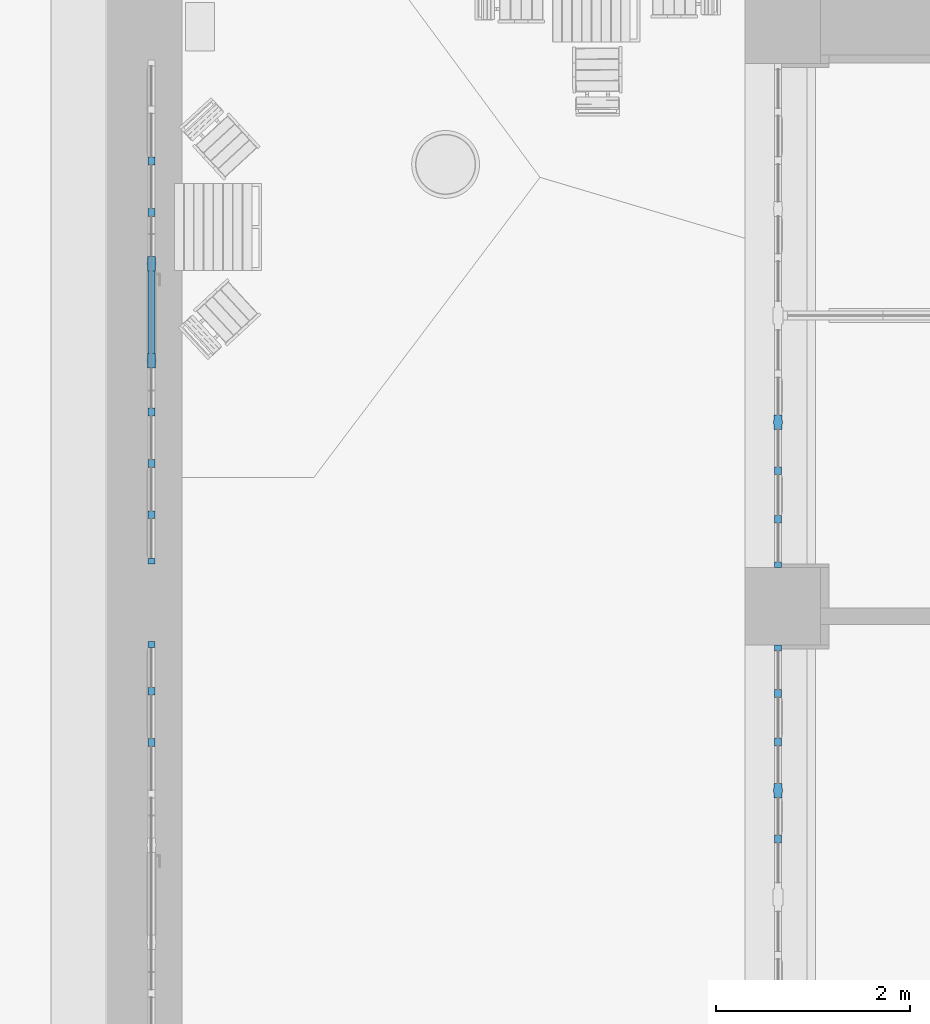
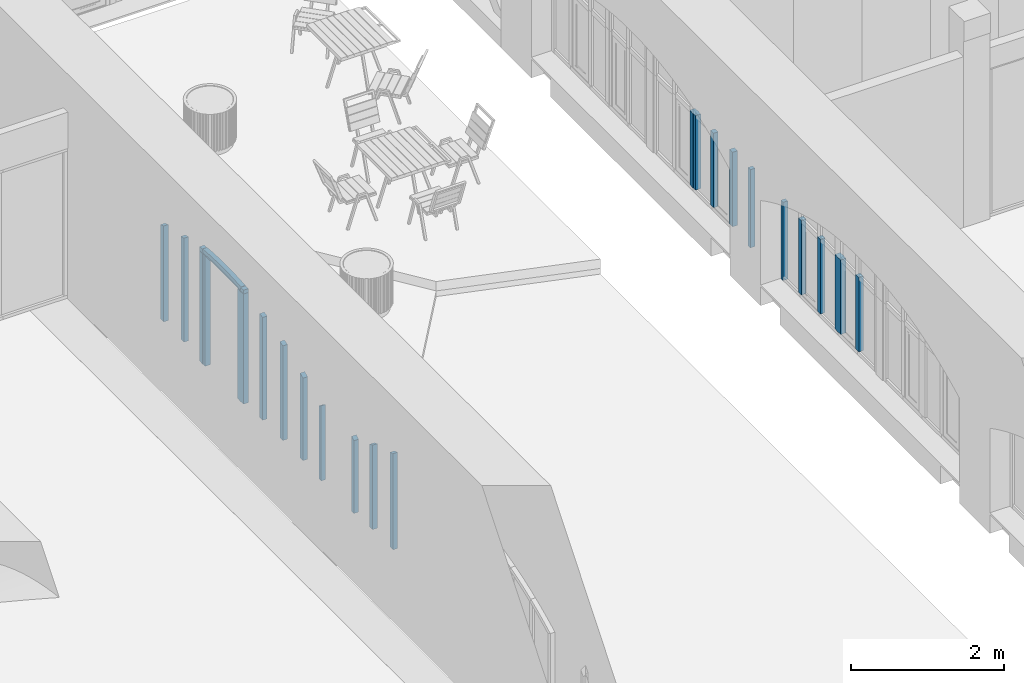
# One storey, part 12 of 88: 22 members, 4 elements without a shape of their own.
"""IFC2X3 building model written with IfcOpenShell, lengths in millimetres."""

import ifcopenshell
import ifcopenshell.guid

model = None  # the IFC model being written
_history = None  # IfcOwnerHistory: only IFC2X3 demands one
_inside = {}  # id of a spatial element -> (the spatial element, [elements in it])
_under = {}  # id of a project, library or spatial element -> (it, [spatial elements below it])
_declared = {}  # id of a project -> (the project, [libraries it declares])
_typed = {}  # id of a type object -> (the type object, [elements of that type])
_made_of = {}  # id of a material, layer set ... -> (it, [elements and type objects made of it])


def new_model(schema):
    """Start an empty IFC model of exactly this schema.

    Asked for "IFC4X3", IfcOpenShell would pick the latest addendum, in which some entities
    have other attributes; the version numbers below select the first issue.
    IFC2X3 requires an IfcOwnerHistory on every rooted entity: one is made here for all.
    """
    global model, _history
    if schema == "IFC4X3":
        model = ifcopenshell.file(schema_version=(4, 3, 0, 0))
    else:
        model = ifcopenshell.file(schema=schema)
    _inside.clear()
    _under.clear()
    _declared.clear()
    _typed.clear()
    _made_of.clear()
    _history = None
    if model.schema == "IFC2X3":
        org = make("IfcOrganization", Name="unknown")
        user = make(
            "IfcPersonAndOrganization",
            ThePerson=make("IfcPerson", FamilyName="unknown"),
            TheOrganization=org,
        )
        app = make(
            "IfcApplication",
            ApplicationDeveloper=org,
            Version="unknown",
            ApplicationFullName="unknown",
            ApplicationIdentifier="unknown",
        )
        _history = make(
            "IfcOwnerHistory",
            OwningUser=user,
            OwningApplication=app,
            ChangeAction="ADDED",
            CreationDate=0,
        )
    return model


def make(cls, **values):
    """One entity of the class cls with the attributes given. An attribute that is None is left unset."""
    return model.create_entity(
        cls, **{name: value for name, value in values.items() if value is not None}
    )


def entity(cls, *values):
    """Any entity or typed value of the class cls, its attributes in the order of the schema. None: left unset."""
    e = model.create_entity(cls)
    for i, value in enumerate(values):
        if value is not None:
            e[i] = value
    return e


def rooted(cls, **values):
    """An entity with a GlobalId (a new one), such as an element, a storey or a relation."""
    return make(cls, GlobalId=ifcopenshell.guid.new(), OwnerHistory=_history, **values)


def si_unit(unit_type, name, prefix=None):
    """IfcSIUnit, for example si_unit("LENGTHUNIT", "METRE", prefix="MILLI")."""
    return make("IfcSIUnit", UnitType=unit_type, Prefix=prefix, Name=name)


def converted_unit(unit_type, name, factor, base, dimensions=None, offset=None):
    """IfcConversionBasedUnit, such as the inch: factor (a typed value) times the base unit."""
    return make(
        "IfcConversionBasedUnit"
        if offset is None
        else "IfcConversionBasedUnitWithOffset",
        ConversionOffset=offset,
        Dimensions=None
        if dimensions is None
        else entity("IfcDimensionalExponents", *dimensions),
        UnitType=unit_type,
        Name=name,
        ConversionFactor=make(
            "IfcMeasureWithUnit", ValueComponent=factor, UnitComponent=base
        ),
    )


def derived_unit(unit_type, elements):
    """IfcDerivedUnit: a product of units, each with its exponent."""
    return make(
        "IfcDerivedUnit",
        Elements=[
            make("IfcDerivedUnitElement", Unit=unit, Exponent=power)
            for unit, power in elements
        ],
        UnitType=unit_type,
    )


def assignment(units):
    """IfcUnitAssignment: the units of a project."""
    return None if units is None else make("IfcUnitAssignment", Units=units)


def point(xyz):
    """IfcCartesianPoint."""
    return None if xyz is None else make("IfcCartesianPoint", Coordinates=xyz)


def direction(xyz):
    """IfcDirection."""
    return None if xyz is None else make("IfcDirection", DirectionRatios=xyz)


def frame(location, z_axis=None, x_axis=None):
    """IfcAxis2Placement3D, a coordinate frame: its origin and axes. An axis left out is left unset."""
    return make(
        "IfcAxis2Placement3D",
        Location=point(location),
        Axis=direction(z_axis),
        RefDirection=direction(x_axis),
    )


def frame_2d(location, x_axis=None):
    """IfcAxis2Placement2D, a coordinate frame in the plane: its origin and x axis."""
    return make(
        "IfcAxis2Placement2D", Location=point(location), RefDirection=direction(x_axis)
    )


def origin():
    """The frame at (0, 0, 0) with its axes left unset."""
    return frame((0.0, 0.0, 0.0))


def place(relative_to, where):
    """IfcLocalPlacement: puts the frame where relative to a parent placement (None: the world)."""
    return make(
        "IfcLocalPlacement", PlacementRelTo=relative_to, RelativePlacement=where
    )


def context(
    kind, dimensions, precision=None, world=None, true_north=None, identifier=None
):
    """IfcGeometricRepresentationContext, for example the 3D "Model" context."""
    return make(
        "IfcGeometricRepresentationContext",
        ContextIdentifier=identifier,
        ContextType=kind,
        CoordinateSpaceDimension=dimensions,
        Precision=precision,
        WorldCoordinateSystem=world,
        TrueNorth=true_north,
    )


def subcontext(parent, identifier, kind, view, scale=None):
    """IfcGeometricRepresentationSubContext, for example "Body" below "Model"."""
    return make(
        "IfcGeometricRepresentationSubContext",
        ContextIdentifier=identifier,
        ContextType=kind,
        ParentContext=parent,
        TargetScale=scale,
        TargetView=view,
    )


def project(units=None, contexts=None):
    """IfcProject with its units and contexts."""
    return rooted(
        "IfcProject",
        Name="project",
        RepresentationContexts=contexts,
        UnitsInContext=assignment(units),
    )


def spatial(cls, under=None, at=None, **own):
    """A site, building, storey or space (cls), placed at a placement, below another one or the project."""
    s = rooted(cls, ObjectPlacement=at, **own)
    if under is not None:
        _under.setdefault(under.id(), (under, []))[1].append(s)
    return s


def polyline(points):
    """IfcPolyline through the points."""
    return make("IfcPolyline", Points=[point(p) for p in points])


def circle_curve(where, radius):
    """IfcCircle in the frame where."""
    return make("IfcCircle", Position=where, Radius=radius)


def parameter(value):
    """IfcParameterValue: where a trimmed curve begins or ends, as a parameter of its basis curve."""
    return model.create_entity("IfcParameterValue", value)


def trimmed(basis, trim1, trim2, sense, master):
    """IfcTrimmedCurve: the piece of a basis curve between two trims."""
    return make(
        "IfcTrimmedCurve",
        BasisCurve=basis,
        Trim1=trim1,
        Trim2=trim2,
        SenseAgreement=sense,
        MasterRepresentation=master,
    )


def segment(curve, same_sense, transition):
    """IfcCompositeCurveSegment."""
    return make(
        "IfcCompositeCurveSegment",
        Transition=transition,
        SameSense=same_sense,
        ParentCurve=curve,
    )


def composite_curve(segments, self_intersect=None):
    """IfcCompositeCurve: segments joined end to end."""
    return make("IfcCompositeCurve", Segments=segments, SelfIntersect=self_intersect)


def profile(cls, at=None, kind="AREA", **sizes):
    """A parametric profile (cls). Its sizes go by their IFC names, for example OverallWidth=200.0."""
    return make(cls, ProfileType=kind, Position=at, **sizes)


def rectangle(**sizes):
    """IfcRectangleProfileDef."""
    return profile("IfcRectangleProfileDef", **sizes)


def outline(outer, holes=None, kind="AREA"):
    """IfcArbitraryClosedProfileDef: a profile drawn as a closed curve; with holes, ...WithVoids."""
    if holes is None:
        return make("IfcArbitraryClosedProfileDef", ProfileType=kind, OuterCurve=outer)
    return make(
        "IfcArbitraryProfileDefWithVoids",
        ProfileType=kind,
        OuterCurve=outer,
        InnerCurves=holes,
    )


def extrude(swept, where, along, depth):
    """IfcExtrudedAreaSolid: the profile swept, set in the frame where, extruded along a direction by depth."""
    return make(
        "IfcExtrudedAreaSolid",
        SweptArea=swept,
        Position=where,
        ExtrudedDirection=direction(along),
        Depth=depth,
    )


def shape(context_of_items, identifier, shape_type, items):
    """IfcShapeRepresentation: the items that make up one representation, for example the "Body"."""
    return make(
        "IfcShapeRepresentation",
        ContextOfItems=context_of_items,
        RepresentationIdentifier=identifier,
        RepresentationType=shape_type,
        Items=items,
    )


def source(mapping_origin, context_of_items, identifier, shape_type, items):
    """IfcRepresentationMap: a shape defined once, which mapped items show again and again."""
    return make(
        "IfcRepresentationMap",
        MappingOrigin=mapping_origin,
        MappedRepresentation=shape(context_of_items, identifier, shape_type, items),
    )


def transform(
    local_origin,
    x_axis=None,
    y_axis=None,
    z_axis=None,
    scale=None,
    scale2=None,
    scale3=None,
    uniform=True,
):
    """IfcCartesianTransformationOperator3D, or its non-uniform kind. x_axis, y_axis, z_axis: its Axis1, 2, 3."""
    if uniform:
        return make(
            "IfcCartesianTransformationOperator3D",
            Axis1=direction(x_axis),
            Axis2=direction(y_axis),
            LocalOrigin=point(local_origin),
            Scale=scale,
            Axis3=direction(z_axis),
        )
    return make(
        "IfcCartesianTransformationOperator3DnonUniform",
        Axis1=direction(x_axis),
        Axis2=direction(y_axis),
        LocalOrigin=point(local_origin),
        Scale=scale,
        Axis3=direction(z_axis),
        Scale2=scale2,
        Scale3=scale3,
    )


def mapped(mapping_source, mapping_target):
    """IfcMappedItem: shows the shape of a source again, moved by a transform."""
    return make(
        "IfcMappedItem", MappingSource=mapping_source, MappingTarget=mapping_target
    )


def material(Name=None, Category=None):
    """IfcMaterial."""
    return make("IfcMaterial", Name=Name, Category=Category)


def made_of(thing, what):
    """Note that an element or type object is made of a material, layer set ...; save() writes the relation."""
    if what is not None:
        _made_of.setdefault(what.id(), (what, []))[1].append(thing)
    return thing


def type_object(cls, material=None, **own):
    """A type object (cls), such as IfcWallType, which elements share."""
    return made_of(rooted(cls, **own), material)


def type_shapes(of_type, sources):
    """Give a type object the sources (RepresentationMaps) that its elements show as mapped items."""
    of_type.RepresentationMaps = sources


def element(
    cls,
    number,
    at=None,
    inside=None,
    cuts=None,
    type_object=None,
    material=None,
    context=None,
    identifier="Body",
    shape_type=None,
    held_by="IfcProductDefinitionShape",
    body=None,
    shapes=None,
    **own,
):
    """One element of the class cls, such as IfcWall. Its Tag is "e" and its number.

    at: its placement. inside: the storey or other place that contains it. cuts: it is an
    opening in that element (IfcRelVoidsElement). A single representation is given by context,
    identifier, shape_type and body (its items); several are given by shapes. held_by: the class
    of the entity that holds the representations. save() writes the other relations.
    """
    e = rooted(cls, Tag="e%d" % number, ObjectPlacement=at, **own)
    if body is not None:
        shapes = [shape(context, identifier, shape_type, body)]
    if shapes is not None:
        e.Representation = make(held_by, Representations=shapes)
    if inside is not None:
        _inside.setdefault(inside.id(), (inside, []))[1].append(e)
    if cuts is not None:
        rooted(
            "IfcRelVoidsElement", RelatingBuildingElement=cuts, RelatedOpeningElement=e
        )
    if type_object is not None:
        _typed.setdefault(type_object.id(), (type_object, []))[1].append(e)
    return made_of(e, material)


def aggregate(whole, parts):
    """IfcRelAggregates: a whole, such as a stair, and the parts it consists of."""
    return rooted("IfcRelAggregates", RelatingObject=whole, RelatedObjects=parts)


def save(model, path):
    """Write the relations noted so far, then the file.

    IfcRelAggregates (storeys below a building ...), IfcRelContainedInSpatialStructure (elements
    in a storey), IfcRelDefinesByType, IfcRelAssociatesMaterial and IfcRelDeclares: one each for
    every whole, place, type object, material and project.
    """
    for whole, parts in _under.values():
        aggregate(whole, parts)
    for where, things in _inside.values():
        rooted(
            "IfcRelContainedInSpatialStructure",
            RelatedElements=things,
            RelatingStructure=where,
        )
    for kind, things in _typed.values():
        rooted("IfcRelDefinesByType", RelatedObjects=things, RelatingType=kind)
    for what, things in _made_of.values():
        rooted("IfcRelAssociatesMaterial", RelatedObjects=things, RelatingMaterial=what)
    for by, libraries in _declared.values():
        rooted("IfcRelDeclares", RelatingContext=by, RelatedDefinitions=libraries)
    model.write(path)


model = new_model("IFC2X3")

# Units and contexts
model_context = context("Model", 3, precision=0.01, world=origin(), true_north=direction((6.123031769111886e-17, 1.0)))
body_context = subcontext(model_context, "Body", "Model", "MODEL_VIEW")
ifc_project = project(units=[si_unit("LENGTHUNIT", "METRE", prefix="MILLI"), si_unit("AREAUNIT", "SQUARE_METRE"), si_unit("VOLUMEUNIT", "CUBIC_METRE"), converted_unit("PLANEANGLEUNIT", "DEGREE", entity("IfcPlaneAngleMeasure", 0.017453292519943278), si_unit("PLANEANGLEUNIT", "RADIAN"), dimensions=[0, 0, 0, 0, 0, 0, 0]), si_unit("MASSUNIT", "GRAM", prefix="KILO"), derived_unit("MASSDENSITYUNIT", [(si_unit("MASSUNIT", "GRAM", prefix="KILO"), 1), (si_unit("LENGTHUNIT", "METRE"), -3)]), derived_unit("IONCONCENTRATIONUNIT", [(si_unit("MASSUNIT", "GRAM", prefix="KILO"), 1), (si_unit("LENGTHUNIT", "METRE"), -3)]), derived_unit("MOMENTOFINERTIAUNIT", [(si_unit("LENGTHUNIT", "METRE"), 4)]), si_unit("TIMEUNIT", "SECOND"), si_unit("FREQUENCYUNIT", "HERTZ"), si_unit("THERMODYNAMICTEMPERATUREUNIT", "DEGREE_CELSIUS"), derived_unit("THERMALTRANSMITTANCEUNIT", [(si_unit("MASSUNIT", "GRAM", prefix="KILO"), 1), (si_unit("THERMODYNAMICTEMPERATUREUNIT", "KELVIN"), -1), (si_unit("TIMEUNIT", "SECOND"), -3)]), derived_unit("THERMALCONDUCTANCEUNIT", [(si_unit("MASSUNIT", "GRAM", prefix="KILO"), 1), (si_unit("THERMODYNAMICTEMPERATUREUNIT", "KELVIN"), -1), (si_unit("TIMEUNIT", "SECOND"), -3), (si_unit("LENGTHUNIT", "METRE"), 1)]), derived_unit("VOLUMETRICFLOWRATEUNIT", [(si_unit("LENGTHUNIT", "METRE", prefix="DECI"), 3), (si_unit("TIMEUNIT", "SECOND"), -1)]), derived_unit("MASSFLOWRATEUNIT", [(si_unit("MASSUNIT", "GRAM", prefix="KILO"), 1), (si_unit("TIMEUNIT", "SECOND"), -1)]), derived_unit("ROTATIONALFREQUENCYUNIT", [(si_unit("TIMEUNIT", "SECOND"), -1)]), si_unit("ELECTRICCURRENTUNIT", "AMPERE"), si_unit("ELECTRICVOLTAGEUNIT", "VOLT"), si_unit("POWERUNIT", "WATT"), si_unit("FORCEUNIT", "NEWTON", prefix="KILO"), si_unit("ILLUMINANCEUNIT", "LUX"), si_unit("LUMINOUSFLUXUNIT", "LUMEN"), si_unit("LUMINOUSINTENSITYUNIT", "CANDELA"), si_unit("ENERGYUNIT", "JOULE"), derived_unit("USERDEFINED", [(si_unit("MASSUNIT", "GRAM", prefix="KILO"), -1), (si_unit("LENGTHUNIT", "METRE"), -2), (si_unit("TIMEUNIT", "SECOND"), 3), (si_unit("LUMINOUSFLUXUNIT", "LUMEN"), 1)]), derived_unit("USERDEFINED", [(si_unit("MASSUNIT", "GRAM", prefix="KILO"), 1), (si_unit("TIMEUNIT", "SECOND"), -3), (si_unit("LENGTHUNIT", "METRE"), 3), (si_unit("ELECTRICCURRENTUNIT", "AMPERE"), -2)]), derived_unit("SOUNDPOWERUNIT", [(si_unit("MASSUNIT", "GRAM", prefix="KILO"), 1), (si_unit("TIMEUNIT", "SECOND"), -3), (si_unit("LENGTHUNIT", "METRE"), 2)]), derived_unit("SOUNDPRESSUREUNIT", [(si_unit("MASSUNIT", "GRAM", prefix="KILO"), 1), (si_unit("LENGTHUNIT", "METRE"), -1), (si_unit("TIMEUNIT", "SECOND"), -2)]), derived_unit("LINEARVELOCITYUNIT", [(si_unit("LENGTHUNIT", "METRE"), 1), (si_unit("TIMEUNIT", "SECOND"), -1)]), si_unit("PRESSUREUNIT", "PASCAL"), derived_unit("USERDEFINED", [(si_unit("MASSUNIT", "GRAM", prefix="KILO"), 1), (si_unit("LENGTHUNIT", "METRE"), -2), (si_unit("TIMEUNIT", "SECOND"), -2)]), derived_unit("LINEARFORCEUNIT", [(si_unit("MASSUNIT", "GRAM", prefix="KILO"), 1), (si_unit("TIMEUNIT", "SECOND"), -2)]), derived_unit("PLANARFORCEUNIT", [(si_unit("MASSUNIT", "GRAM", prefix="KILO"), 1), (si_unit("LENGTHUNIT", "METRE"), -1), (si_unit("TIMEUNIT", "SECOND"), -2)]), derived_unit("SPECIFICHEATCAPACITYUNIT", [(si_unit("THERMODYNAMICTEMPERATUREUNIT", "KELVIN"), -1), (si_unit("LENGTHUNIT", "METRE"), 2), (si_unit("TIMEUNIT", "SECOND"), -2)]), derived_unit("HEATFLUXDENSITYUNIT", [(si_unit("MASSUNIT", "GRAM", prefix="KILO"), 1), (si_unit("TIMEUNIT", "SECOND"), -3)]), derived_unit("HEATINGVALUEUNIT", [(si_unit("LENGTHUNIT", "METRE"), 2), (si_unit("TIMEUNIT", "SECOND"), -2)]), derived_unit("VAPORPERMEABILITYUNIT", [(si_unit("LENGTHUNIT", "METRE"), -1), (si_unit("TIMEUNIT", "SECOND"), 1)]), derived_unit("DYNAMICVISCOSITYUNIT", [(si_unit("MASSUNIT", "GRAM", prefix="KILO"), 1), (si_unit("TIMEUNIT", "SECOND"), -1), (si_unit("LENGTHUNIT", "METRE"), -1)]), derived_unit("THERMALEXPANSIONCOEFFICIENTUNIT", [(si_unit("THERMODYNAMICTEMPERATUREUNIT", "KELVIN"), -1)]), derived_unit("MODULUSOFELASTICITYUNIT", [(si_unit("MASSUNIT", "GRAM", prefix="KILO"), 1), (si_unit("LENGTHUNIT", "METRE"), -1), (si_unit("TIMEUNIT", "SECOND"), -2)]), derived_unit("ISOTHERMALMOISTURECAPACITYUNIT", [(si_unit("MASSUNIT", "GRAM", prefix="KILO"), -1), (si_unit("LENGTHUNIT", "METRE"), 3)]), derived_unit("MOISTUREDIFFUSIVITYUNIT", [(si_unit("TIMEUNIT", "SECOND"), -1), (si_unit("LENGTHUNIT", "METRE"), 2)]), derived_unit("MASSPERLENGTHUNIT", [(si_unit("MASSUNIT", "GRAM", prefix="KILO"), 1), (si_unit("LENGTHUNIT", "METRE"), -1)]), derived_unit("THERMALRESISTANCEUNIT", [(si_unit("MASSUNIT", "GRAM", prefix="KILO"), -1), (si_unit("TIMEUNIT", "SECOND"), 3), (si_unit("THERMODYNAMICTEMPERATUREUNIT", "KELVIN"), 1)]), derived_unit("ACCELERATIONUNIT", [(si_unit("LENGTHUNIT", "METRE"), 1), (si_unit("TIMEUNIT", "SECOND"), -2)]), derived_unit("ANGULARVELOCITYUNIT", [(si_unit("TIMEUNIT", "SECOND"), -1), (si_unit("PLANEANGLEUNIT", "RADIAN"), 1)]), derived_unit("LINEARSTIFFNESSUNIT", [(si_unit("MASSUNIT", "GRAM", prefix="KILO"), 1), (si_unit("TIMEUNIT", "SECOND"), -2)]), derived_unit("WARPINGCONSTANTUNIT", [(si_unit("LENGTHUNIT", "METRE"), 6)]), derived_unit("LINEARMOMENTUNIT", [(si_unit("MASSUNIT", "GRAM", prefix="KILO"), 1), (si_unit("LENGTHUNIT", "METRE"), 1), (si_unit("TIMEUNIT", "SECOND"), -2)]), derived_unit("TORQUEUNIT", [(si_unit("MASSUNIT", "GRAM", prefix="KILO"), 1), (si_unit("LENGTHUNIT", "METRE"), 2), (si_unit("TIMEUNIT", "SECOND"), -2)])], contexts=[model_context])

# Site, building, storey
site_placement = place(None, origin())
site = spatial("IfcSite", under=ifc_project, at=site_placement, Name="Default", CompositionType="ELEMENT")
building_placement = place(site_placement, origin())
building = spatial("IfcBuilding", under=site, at=building_placement, Name="Eesti Rahvusraamatukogu hoone renoveerimise projekteerimistööd", CompositionType="ELEMENT")
storey_placement = place(building_placement, origin())
storey = spatial("IfcBuildingStorey", under=building, at=storey_placement, Name="1. korrus", CompositionType="ELEMENT", Elevation=0.0)

# Curtain wall, members
curtain_wall_type_1 = type_object("IfcCurtainWallType", Name="Curtain Wall:Ak-02", PredefinedType="NOTDEFINED")
curtain_wall_1_placement = place(storey_placement, origin())
curtain_wall_1 = element("IfcCurtainWall", 1, at=curtain_wall_1_placement, inside=storey, type_object=curtain_wall_type_1, Name="Curtain Wall:Ak-02", ObjectType="Curtain Wall:Ak-02")
ifc_material = material(Name="LUMION_dark steel window frames")
member_type_1 = type_object("IfcMemberType", Name="Rectangular Mullion:NEW 80x70mm", PredefinedType="MULLION", material=ifc_material)
shared_shape_1 = source(origin(), body_context, "Body", "SweptSolid", [
    extrude(rectangle(XDim=80.0, YDim=70.0, at=frame_2d((0.0, 3.552713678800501e-15), x_axis=(1.0, 0.0))), frame((0.0, 0.0, -1190.0), z_axis=(0.0, 0.0, 1.0), x_axis=(-1.0, 0.0, 0.0)), (0.0, 0.0, 1.0), 1189.9999999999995),
])
type_shapes(member_type_1, [shared_shape_1])
member_1_placement = place(curtain_wall_1_placement, frame((-36440.0, 43790.0, 2040.0), z_axis=(0.0, 0.0, -1.0), x_axis=(0.0, -1.0, 0.0)))
member_1 = element("IfcMember", 2, at=member_1_placement, type_object=member_type_1, material=ifc_material, Name="Rectangular Mullion:NEW 80x70mm", ObjectType="Rectangular Mullion:NEW 80x70mm", context=body_context, shape_type="MappedRepresentation", body=[
    mapped(shared_shape_1, transform((0.0, 0.0, 0.0), scale=1.0)),
])
member_2_placement = place(curtain_wall_1_placement, frame((-36440.0, 43290.0, 2040.0), z_axis=(0.0, 0.0, -1.0), x_axis=(0.0, -1.0, 0.0)))
member_2 = element("IfcMember", 3, at=member_2_placement, type_object=member_type_1, material=ifc_material, Name="Rectangular Mullion:NEW 80x70mm", ObjectType="Rectangular Mullion:NEW 80x70mm", context=body_context, shape_type="MappedRepresentation", body=[
    mapped(shared_shape_1, transform((0.0, 0.0, 0.0), scale=1.0)),
])

curtain_wall_2_placement = place(storey_placement, origin())
curtain_wall_2 = element("IfcCurtainWall", 4, at=curtain_wall_2_placement, inside=storey, type_object=curtain_wall_type_1, Name="Curtain Wall:Ak-02", ObjectType="Curtain Wall:Ak-02")
member_3_placement = place(curtain_wall_2_placement, frame((-36440.0, 41490.0, 2040.0), z_axis=(0.0, 0.0, -1.0), x_axis=(0.0, -1.0, 0.0)))
member_3 = element("IfcMember", 5, at=member_3_placement, type_object=member_type_1, material=ifc_material, Name="Rectangular Mullion:NEW 80x70mm", ObjectType="Rectangular Mullion:NEW 80x70mm", context=body_context, shape_type="MappedRepresentation", body=[
    mapped(shared_shape_1, transform((0.0, 0.0, 0.0), scale=1.0)),
])
member_4_placement = place(curtain_wall_2_placement, frame((-36440.0, 40990.0, 2040.0), z_axis=(0.0, 0.0, -1.0), x_axis=(0.0, -1.0, 0.0)))
member_4 = element("IfcMember", 6, at=member_4_placement, type_object=member_type_1, material=ifc_material, Name="Rectangular Mullion:NEW 80x70mm", ObjectType="Rectangular Mullion:NEW 80x70mm", context=body_context, shape_type="MappedRepresentation", body=[
    mapped(shared_shape_1, transform((0.0, 0.0, 0.0), scale=1.0)),
])
member_5_placement = place(curtain_wall_2_placement, frame((-36440.0, 39990.0, 2040.0), z_axis=(0.0, 0.0, -1.0), x_axis=(0.0, -1.0, 0.0)))
member_5 = element("IfcMember", 7, at=member_5_placement, type_object=member_type_1, material=ifc_material, Name="Rectangular Mullion:NEW 80x70mm", ObjectType="Rectangular Mullion:NEW 80x70mm", context=body_context, shape_type="MappedRepresentation", body=[
    mapped(shared_shape_1, transform((0.0, 0.0, 0.0), scale=1.0)),
])

# Member
member_type_2 = type_object("IfcMemberType", Name="Rectangular Mullion:NEW 150x90mm", PredefinedType="MULLION", material=ifc_material)
shared_shape_2 = source(origin(), body_context, "Body", "SweptSolid", [
    extrude(outline(polyline([(20.0, -40.0), (75.0, -40.0), (75.0, 40.0), (20.0, 40.0), (20.0, 45.0), (-20.0, 45.0), (-20.0, 40.0), (-75.0, 40.0), (-75.0, -40.0), (-20.0, -40.0), (-20.0, -45.0), (20.0, -45.0), (20.0, -40.0)])), frame((0.0, 0.0, -1190.0), z_axis=(0.0, 0.0, 1.0), x_axis=(-1.0, 0.0, 0.0)), (0.0, 0.0, 1.0), 1189.9999999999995),
])
type_shapes(member_type_2, [shared_shape_2])
member_6_placement = place(curtain_wall_1_placement, frame((-36440.0, 44290.0, 2040.0), z_axis=(0.0, 0.0, -1.0), x_axis=(0.0, -1.0, 0.0)))
member_6 = element("IfcMember", 8, at=member_6_placement, type_object=member_type_2, material=ifc_material, Name="Rectangular Mullion:NEW 150x90mm", ObjectType="Rectangular Mullion:NEW 150x90mm", context=body_context, shape_type="MappedRepresentation", body=[
    mapped(shared_shape_2, transform((0.0, 0.0, 0.0), scale=1.0)),
])

member_7_placement = place(curtain_wall_2_placement, frame((-36440.0, 40490.0, 2040.0), z_axis=(0.0, 0.0, -1.0), x_axis=(0.0, -1.0, 0.0)))
member_7 = element("IfcMember", 9, at=member_7_placement, type_object=member_type_2, material=ifc_material, Name="Rectangular Mullion:NEW 150x90mm", ObjectType="Rectangular Mullion:NEW 150x90mm", context=body_context, shape_type="MappedRepresentation", body=[
    mapped(shared_shape_2, transform((0.0, 0.0, 0.0), scale=1.0)),
])

member_type_3 = type_object("IfcMemberType", Name="Rectangular Mullion:NEW 60x70mm", PredefinedType="MULLION", material=ifc_material)
shared_shape_3 = source(origin(), body_context, "Body", "SweptSolid", [
    extrude(rectangle(XDim=60.0, YDim=70.0, at=frame_2d((0.0, 3.552713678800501e-15), x_axis=(1.0, 0.0))), frame((-30.0, 0.0, -1250.0), z_axis=(0.0, 0.0, 1.0), x_axis=(-1.0, 0.0, 0.0)), (0.0, 0.0, 1.0), 1249.9999999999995),
])
type_shapes(member_type_3, [shared_shape_3])
member_8_placement = place(curtain_wall_1_placement, frame((-36440.0, 42790.0, 1980.0), z_axis=(0.0, 0.0, -1.0), x_axis=(0.0, -1.0, 0.0)))
member_8 = element("IfcMember", 10, at=member_8_placement, type_object=member_type_3, material=ifc_material, Name="Rectangular Mullion:NEW 60x70mm", ObjectType="Rectangular Mullion:NEW 60x70mm", context=body_context, shape_type="MappedRepresentation", body=[
    mapped(shared_shape_3, transform((0.0, 0.0, 0.0), scale=1.0)),
])

aggregate(curtain_wall_1, [member_6, member_1, member_2, member_8])

member_type_4 = type_object("IfcMemberType", Name="Rectangular Mullion:NEW 60x70mm", PredefinedType="MULLION", material=ifc_material)
shared_shape_4 = source(origin(), body_context, "Body", "SweptSolid", [
    extrude(rectangle(XDim=60.0, YDim=70.0, at=frame_2d((0.0, 3.552713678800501e-15), x_axis=(1.0, 0.0))), frame((-30.0, 0.0, -1250.0), z_axis=(0.0, 0.0, 1.0), x_axis=(-1.0, 0.0, 0.0)), (0.0, 0.0, 1.0), 1249.9999999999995),
])
type_shapes(member_type_4, [shared_shape_4])
member_9_placement = place(curtain_wall_2_placement, frame((-36440.0, 41990.0, 3230.0), z_axis=(0.0, 0.0, 1.0), x_axis=(0.0, 1.0, 0.0)))
member_9 = element("IfcMember", 11, at=member_9_placement, type_object=member_type_4, material=ifc_material, Name="Rectangular Mullion:NEW 60x70mm", ObjectType="Rectangular Mullion:NEW 60x70mm", context=body_context, shape_type="MappedRepresentation", body=[
    mapped(shared_shape_4, transform((0.0, 0.0, 0.0), scale=1.0)),
])

aggregate(curtain_wall_2, [member_3, member_4, member_7, member_5, member_9])

# Curtain wall, members
curtain_wall_type_2 = type_object("IfcCurtainWallType", Name="Curtain Wall:Ak-05", PredefinedType="NOTDEFINED")
curtain_wall_3_placement = place(storey_placement, origin())
curtain_wall_3 = element("IfcCurtainWall", 12, at=curtain_wall_3_placement, inside=storey, type_object=curtain_wall_type_2, Name="Curtain Wall:Ak-05", ObjectType="Curtain Wall:Ak-05")
member_type_5 = type_object("IfcMemberType", Name="Rectangular Mullion:NEW 60x70mm", PredefinedType="MULLION", material=ifc_material)
shared_shape_5 = source(origin(), body_context, "Body", "SweptSolid", [
    extrude(outline(composite_curve([segment(polyline([(-75.01710683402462, -495.2424237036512), (-15.017106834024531, -495.2424237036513)]), True, "CONTINUOUS"), segment(trimmed(circle_curve(frame_2d((5448.26345993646, -495.24242370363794), x_axis=(-0.9836101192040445, 0.1803084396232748)), 5463.280566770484), [parameter(3.5622212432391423e-13)], [parameter(10.387726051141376)], True, "PARAMETER"), False, "CONTINUOUS"), segment(polyline([(74.52541041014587, 489.83317051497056), (15.508803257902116, 500.65167689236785)]), True, "CONTINUOUS"), segment(trimmed(circle_curve(frame_2d((5448.26345993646, -495.24242370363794), x_axis=(-0.9836101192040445, 0.1803084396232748)), 5523.280566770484), [parameter(3.5622212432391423e-13)], [parameter(10.387726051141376)], True, "PARAMETER"), True, "CONTINUOUS")], self_intersect=False)), frame((-75.01710683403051, -35.0, -495.2424237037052), z_axis=(0.0, 1.0, 0.0), x_axis=(-0.9836101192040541, 0.0, 0.18030843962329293)), (0.0, 0.0, 1.0), 69.99999999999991),
])
type_shapes(member_type_5, [shared_shape_5])
member_10_placement = place(curtain_wall_3_placement, frame((-42905.0, 44925.0, 2327.321965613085), z_axis=(0.0, -0.9958941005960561, -0.0905259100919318), x_axis=(0.0, -0.0905259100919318, 0.9958941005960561)))
member_10 = element("IfcMember", 13, at=member_10_placement, type_object=member_type_5, material=ifc_material, Name="Rectangular Mullion:NEW 60x70mm", ObjectType="Rectangular Mullion:NEW 60x70mm", context=body_context, shape_type="MappedRepresentation", body=[
    mapped(shared_shape_5, transform((0.0, 0.0, 0.0), scale=1.0)),
])
member_type_6 = type_object("IfcMemberType", Name="Rectangular Mullion:NEW 150x90mm", PredefinedType="MULLION", material=ifc_material)
shared_shape_6 = source(origin(), body_context, "Body", "SweptSolid", [
    extrude(outline(polyline([(40.0, -20.0), (45.0, -20.0), (45.0, 20.0), (40.0, 20.0), (40.0, 75.0), (-40.0, 75.0), (-40.0, 20.0), (-45.0, 20.0), (-45.0, -20.0), (-40.0, -20.0), (-40.0, -75.0), (40.0, -75.0), (40.0, -20.0)])), frame((0.0, 0.0, -1760.0), z_axis=(0.0, 0.0, 1.0), x_axis=(0.0, -1.0, 0.0)), (0.0, 0.0, 1.0), 1759.9999999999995),
])
type_shapes(member_type_6, [shared_shape_6])
member_11_placement = place(curtain_wall_3_placement, frame((-42905.0, 45925.0, 500.0), z_axis=(0.0, 0.0, -1.0), x_axis=(0.0, -1.0, 0.0)))
member_11 = element("IfcMember", 14, at=member_11_placement, type_object=member_type_6, material=ifc_material, Name="Rectangular Mullion:NEW 150x90mm", ObjectType="Rectangular Mullion:NEW 150x90mm", context=body_context, shape_type="MappedRepresentation", body=[
    mapped(shared_shape_6, transform((0.0, 0.0, 0.0), scale=1.0)),
])
member_12_placement = place(curtain_wall_3_placement, frame((-42905.0, 44925.0, 500.0), z_axis=(0.0, 0.0, -1.0), x_axis=(0.0, -1.0, 0.0)))
member_12 = element("IfcMember", 15, at=member_12_placement, type_object=member_type_6, material=ifc_material, Name="Rectangular Mullion:NEW 150x90mm", ObjectType="Rectangular Mullion:NEW 150x90mm", context=body_context, shape_type="MappedRepresentation", body=[
    mapped(shared_shape_6, transform((0.0, 0.0, 0.0), scale=1.0)),
])
member_type_7 = type_object("IfcMemberType", Name="Rectangular Mullion:NEW 60x70mm", PredefinedType="MULLION", material=ifc_material)
shared_shape_7 = source(origin(), body_context, "Body", "SweptSolid", [
    extrude(outline(polyline([(-590.8870214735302, -30.0), (608.8836344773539, -30.0), (572.8904084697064, 30.0), (-590.8870214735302, 30.0), (-590.8870214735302, -30.0)])), frame((-30.0, -35.0, -590.8870214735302), z_axis=(0.0, 1.0, 0.0), x_axis=(0.0, 0.0, -1.0)), (0.0, 0.0, 1.0), 70.00000000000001),
])
type_shapes(member_type_7, [shared_shape_7])
member_13_placement = place(curtain_wall_3_placement, frame((-42905.0, 42825.0, 500.0), z_axis=(0.0, 0.0, -1.0), x_axis=(0.0, -1.0, 0.0)))
member_13 = element("IfcMember", 16, at=member_13_placement, type_object=member_type_7, material=ifc_material, Name="Rectangular Mullion:NEW 60x70mm", ObjectType="Rectangular Mullion:NEW 60x70mm", context=body_context, shape_type="MappedRepresentation", body=[
    mapped(shared_shape_7, transform((0.0, 0.0, 0.0), scale=1.0)),
])

# Curtain wall, member
curtain_wall_4_placement = place(storey_placement, origin())
curtain_wall_4 = element("IfcCurtainWall", 17, at=curtain_wall_4_placement, inside=storey, type_object=curtain_wall_type_2, Name="Curtain Wall:Ak-05", ObjectType="Curtain Wall:Ak-05")
member_type_8 = type_object("IfcMemberType", Name="Rectangular Mullion:NEW 60x70mm", PredefinedType="MULLION", material=ifc_material)
shared_shape_8 = source(origin(), body_context, "Body", "SweptSolid", [
    extrude(outline(polyline([(-608.8836344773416, -30.0), (590.8870214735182, -30.0), (590.8870214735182, 30.0), (-572.8904084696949, 30.0), (-608.8836344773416, -30.0)])), frame((-30.0, -35.0, -608.8836344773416), z_axis=(0.0, 1.0, 0.0), x_axis=(0.0, 0.0, -1.0)), (0.0, 0.0, 1.0), 70.00000000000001),
])
type_shapes(member_type_8, [shared_shape_8])
member_14_placement = place(curtain_wall_4_placement, frame((-42905.0, 42025.0, 1699.7706559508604), z_axis=(0.0, 0.0, 1.0), x_axis=(0.0, 1.0, 0.0)))
member_14 = element("IfcMember", 18, at=member_14_placement, type_object=member_type_8, material=ifc_material, Name="Rectangular Mullion:NEW 60x70mm", ObjectType="Rectangular Mullion:NEW 60x70mm", context=body_context, shape_type="MappedRepresentation", body=[
    mapped(shared_shape_8, transform((0.0, 0.0, 0.0), scale=1.0)),
])

# Member
member_type_9 = type_object("IfcMemberType", Name="Rectangular Mullion:NEW 60x70mm", PredefinedType="MULLION", material=ifc_material)
shared_shape_9 = source(origin(), body_context, "Body", "SweptSolid", [
    extrude(rectangle(XDim=60.0, YDim=70.0, at=frame_2d((0.0, -3.552713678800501e-15), x_axis=(1.0, 0.0))), frame((0.0, 0.0, -1150.0), z_axis=(0.0, 0.0, 1.0), x_axis=(-1.0, 0.0, 0.0)), (0.0, 0.0, 1.0), 1149.9999999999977),
])
type_shapes(member_type_9, [shared_shape_9])
member_15_placement = place(curtain_wall_3_placement, frame((-42905.0, 44850.0, 2290.0), z_axis=(0.0, -1.0, 0.0), x_axis=(0.0, 0.0, 1.0)))
member_15 = element("IfcMember", 19, at=member_15_placement, type_object=member_type_9, material=ifc_material, Name="Rectangular Mullion:NEW 60x70mm", ObjectType="Rectangular Mullion:NEW 60x70mm", context=body_context, shape_type="MappedRepresentation", body=[
    mapped(shared_shape_9, transform((0.0, 0.0, 0.0), scale=1.0)),
])

member_type_10 = type_object("IfcMemberType", Name="Rectangular Mullion:NEW 80x70mm", PredefinedType="MULLION", material=ifc_material)
shared_shape_10 = source(origin(), body_context, "Body", "SweptSolid", [
    extrude(outline(composite_curve([segment(polyline([(-802.4490834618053, -44.54077965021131), (515.2279674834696, -44.54077965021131)]), True, "CONTINUOUS"), segment(trimmed(circle_curve(frame_2d((-4515.729650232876, 2085.4592203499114), x_axis=(0.8822747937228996, -0.4707347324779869)), 5463.280566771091), [parameter(5.135238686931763)], [parameter(5.847495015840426)], True, "PARAMETER"), True, "CONTINUOUS"), segment(trimmed(circle_curve(frame_2d((-4515.729650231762, 2085.4592203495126), x_axis=(0.9256428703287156, -0.3783983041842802)), 5463.280566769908), [parameter(0.0)], [parameter(0.1958264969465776)], True, "PARAMETER"), True, "CONTINUOUS"), segment(polyline([(548.3531444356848, 35.45922034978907), (-802.4490834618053, 35.45922034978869)]), True, "CONTINUOUS"), segment(polyline([(-802.4490834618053, 35.45922034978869), (-802.4490834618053, -44.54077965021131)]), True, "CONTINUOUS")], self_intersect=False)), frame((-4.540779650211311, -35.0, -802.4490834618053), z_axis=(0.0, 1.0, 0.0), x_axis=(0.0, 0.0, -1.0)), (0.0, 0.0, 1.0), 69.99999999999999),
])
type_shapes(member_type_10, [shared_shape_10])
member_16_placement = place(curtain_wall_3_placement, frame((-42905.0, 43335.0, 540.0), z_axis=(0.0, 0.0, -1.0), x_axis=(0.0, -1.0, 0.0)))
member_16 = element("IfcMember", 20, at=member_16_placement, type_object=member_type_10, material=ifc_material, Name="Rectangular Mullion:NEW 80x70mm", ObjectType="Rectangular Mullion:NEW 80x70mm", context=body_context, shape_type="MappedRepresentation", body=[
    mapped(shared_shape_10, transform((0.0, 0.0, 0.0), scale=1.0)),
])

member_type_11 = type_object("IfcMemberType", Name="Rectangular Mullion:NEW 80x70mm", PredefinedType="MULLION", material=ifc_material)
shared_shape_11 = source(origin(), body_context, "Body", "SweptSolid", [
    extrude(outline(composite_curve([segment(polyline([(-914.4623251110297, -43.389290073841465), (595.9947117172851, -43.389290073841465)]), True, "CONTINUOUS"), segment(trimmed(circle_curve(frame_2d((-4627.7428918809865, 1556.6107099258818), x_axis=(0.9256428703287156, -0.37839830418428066)), 5463.280566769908), [parameter(5.204987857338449)], [parameter(5.828569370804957)], True, "PARAMETER"), True, "CONTINUOUS"), segment(trimmed(circle_curve(frame_2d((-4627.74289188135, 1556.6107099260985), x_axis=(0.9592847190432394, -0.28244083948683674)), 5463.280566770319), [parameter(0.0)], [parameter(0.25187197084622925)], True, "PARAMETER"), True, "CONTINUOUS"), segment(polyline([(619.8312668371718, 36.61070992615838), (-914.4623251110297, 36.610709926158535)]), True, "CONTINUOUS"), segment(polyline([(-914.4623251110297, 36.610709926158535), (-914.4623251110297, -43.389290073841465)]), True, "CONTINUOUS")], self_intersect=False)), frame((-3.389290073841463, -35.0, -914.4623251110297), z_axis=(0.0, 1.0, 0.0), x_axis=(0.0, 0.0, -1.0)), (0.0, 0.0, 1.0), 69.99999999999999),
])
type_shapes(member_type_11, [shared_shape_11])
member_17_placement = place(curtain_wall_3_placement, frame((-42905.0, 43865.0, 540.0), z_axis=(0.0, 0.0, -1.0), x_axis=(0.0, -1.0, 0.0)))
member_17 = element("IfcMember", 21, at=member_17_placement, type_object=member_type_11, material=ifc_material, Name="Rectangular Mullion:NEW 80x70mm", ObjectType="Rectangular Mullion:NEW 80x70mm", context=body_context, shape_type="MappedRepresentation", body=[
    mapped(shared_shape_11, transform((0.0, 0.0, 0.0), scale=1.0)),
])

member_type_12 = type_object("IfcMemberType", Name="Rectangular Mullion:NEW 80x70mm", PredefinedType="MULLION", material=ifc_material)
shared_shape_12 = source(origin(), body_context, "Body", "SweptSolid", [
    extrude(outline(composite_curve([segment(polyline([(-991.582057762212, -42.23780049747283), (652.61201854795, -42.23780049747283)]), True, "CONTINUOUS"), segment(trimmed(circle_curve(frame_2d((-4704.862624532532, 1027.7621995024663), x_axis=(0.9592847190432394, -0.28244083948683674)), 5463.280566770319), [parameter(5.111376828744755)], [parameter(5.658307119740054)], True, "PARAMETER"), True, "CONTINUOUS"), segment(trimmed(circle_curve(frame_2d((-4704.862624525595, 1027.7621995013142), x_axis=(0.9824581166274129, -0.18648337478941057)), 5463.2805667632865), [parameter(0.0)], [parameter(0.3073932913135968)], True, "PARAMETER"), True, "CONTINUOUS"), segment(polyline([(667.9703852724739, 37.76219950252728), (-991.582057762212, 37.76219950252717)]), True, "CONTINUOUS"), segment(polyline([(-991.582057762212, 37.76219950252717), (-991.582057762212, -42.23780049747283)]), True, "CONTINUOUS")], self_intersect=False)), frame((-2.237800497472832, -35.0, -991.582057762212), z_axis=(0.0, 1.0, 0.0), x_axis=(0.0, 0.0, -1.0)), (0.0, 0.0, 1.0), 70.00000000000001),
])
type_shapes(member_type_12, [shared_shape_12])
member_18_placement = place(curtain_wall_3_placement, frame((-42905.0, 44395.0, 540.0), z_axis=(0.0, 0.0, -1.0), x_axis=(0.0, -1.0, 0.0)))
member_18 = element("IfcMember", 22, at=member_18_placement, type_object=member_type_12, material=ifc_material, Name="Rectangular Mullion:NEW 80x70mm", ObjectType="Rectangular Mullion:NEW 80x70mm", context=body_context, shape_type="MappedRepresentation", body=[
    mapped(shared_shape_12, transform((0.0, 0.0, 0.0), scale=1.0)),
])

member_type_13 = type_object("IfcMemberType", Name="Rectangular Mullion:NEW 80x70mm", PredefinedType="MULLION", material=ifc_material)
shared_shape_13 = source(origin(), body_context, "Body", "SweptSolid", [
    extrude(outline(composite_curve([segment(polyline([(-991.5820577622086, -37.76219950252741), (667.9703852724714, -37.76219950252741)]), True, "CONTINUOUS"), segment(trimmed(circle_curve(frame_2d((-4704.862624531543, -1027.7621995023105), x_axis=(0.9891368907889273, 0.14699731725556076)), 5463.280566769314), [parameter(1.9872788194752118)], [parameter(2.294672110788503)], True, "PARAMETER"), True, "CONTINUOUS"), segment(trimmed(circle_curve(frame_2d((-4704.862624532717, -1027.7621995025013), x_axis=(0.9824581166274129, 0.18648337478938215)), 5463.280566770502), [parameter(0.0)], [parameter(0.546930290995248)], True, "PARAMETER"), True, "CONTINUOUS"), segment(polyline([(652.6120185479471, 42.23780049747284), (-991.5820577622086, 42.23780049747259)]), True, "CONTINUOUS"), segment(polyline([(-991.5820577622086, 42.23780049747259), (-991.5820577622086, -37.76219950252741)]), True, "CONTINUOUS")], self_intersect=False)), frame((2.237800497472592, -35.0, -991.5820577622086), z_axis=(0.0, 1.0, 0.0), x_axis=(0.0, 0.0, -1.0)), (0.0, 0.0, 1.0), 69.99999999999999),
])
type_shapes(member_type_13, [shared_shape_13])
member_19_placement = place(curtain_wall_3_placement, frame((-42905.0, 46455.0, 540.0), z_axis=(0.0, 0.0, -1.0), x_axis=(0.0, -1.0, 0.0)))
member_19 = element("IfcMember", 23, at=member_19_placement, type_object=member_type_13, material=ifc_material, Name="Rectangular Mullion:NEW 80x70mm", ObjectType="Rectangular Mullion:NEW 80x70mm", context=body_context, shape_type="MappedRepresentation", body=[
    mapped(shared_shape_13, transform((0.0, 0.0, 0.0), scale=1.0)),
])

member_type_14 = type_object("IfcMemberType", Name="Rectangular Mullion:NEW 80x70mm", PredefinedType="MULLION", material=ifc_material)
shared_shape_14 = source(origin(), body_context, "Body", "SweptSolid", [
    extrude(outline(composite_curve([segment(polyline([(-914.4623251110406, -36.610709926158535), (619.8312668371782, -36.610709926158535)]), True, "CONTINUOUS"), segment(trimmed(circle_curve(frame_2d((-4627.742891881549, -1556.6107099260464), x_axis=(0.9824581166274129, 0.18648337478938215)), 5463.280566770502), [parameter(5.406435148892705)], [parameter(5.658307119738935)], True, "PARAMETER"), True, "CONTINUOUS"), segment(trimmed(circle_curve(frame_2d((-4627.742891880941, -1556.6107099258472), x_axis=(0.9592847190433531, 0.28244083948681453)), 5463.280566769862), [parameter(0.0)], [parameter(0.6235815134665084)], True, "PARAMETER"), True, "CONTINUOUS"), segment(polyline([(595.9947117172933, 43.38929007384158), (-914.4623251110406, 43.389290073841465)]), True, "CONTINUOUS"), segment(polyline([(-914.4623251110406, 43.389290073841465), (-914.4623251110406, -36.610709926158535)]), True, "CONTINUOUS")], self_intersect=False)), frame((3.389290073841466, -35.0, -914.4623251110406), z_axis=(0.0, 1.0, 0.0), x_axis=(0.0, 0.0, -1.0)), (0.0, 0.0, 1.0), 69.99999999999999),
])
type_shapes(member_type_14, [shared_shape_14])
member_20_placement = place(curtain_wall_3_placement, frame((-42905.0, 46985.0, 540.0), z_axis=(0.0, 0.0, -1.0), x_axis=(0.0, -1.0, 0.0)))
member_20 = element("IfcMember", 24, at=member_20_placement, type_object=member_type_14, material=ifc_material, Name="Rectangular Mullion:NEW 80x70mm", ObjectType="Rectangular Mullion:NEW 80x70mm", context=body_context, shape_type="MappedRepresentation", body=[
    mapped(shared_shape_14, transform((0.0, 0.0, 0.0), scale=1.0)),
])

aggregate(curtain_wall_3, [member_10, member_11, member_12, member_13, member_15, member_16, member_17, member_18, member_19, member_20])

member_21_placement = place(curtain_wall_4_placement, frame((-42905.0, 40985.0, 540.0), z_axis=(0.0, 0.0, -1.0), x_axis=(0.0, -1.0, 0.0)))
member_21 = element("IfcMember", 25, at=member_21_placement, type_object=member_type_14, material=ifc_material, Name="Rectangular Mullion:NEW 80x70mm", ObjectType="Rectangular Mullion:NEW 80x70mm", context=body_context, shape_type="MappedRepresentation", body=[
    mapped(shared_shape_14, transform((0.0, 0.0, 0.0), scale=1.0)),
])

member_type_15 = type_object("IfcMemberType", Name="Rectangular Mullion:NEW 80x70mm", PredefinedType="MULLION", material=ifc_material)
shared_shape_15 = source(origin(), body_context, "Body", "SweptSolid", [
    extrude(outline(composite_curve([segment(polyline([(-802.4490834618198, -35.45922034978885), (548.3531444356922, -35.45922034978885)]), True, "CONTINUOUS"), segment(trimmed(circle_curve(frame_2d((-4515.72965023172, -2085.459220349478), x_axis=(0.9592847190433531, 0.28244083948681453)), 5463.280566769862), [parameter(5.63274287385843)], [parameter(5.828569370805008)], True, "PARAMETER"), True, "CONTINUOUS"), segment(trimmed(circle_curve(frame_2d((-4515.729650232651, -2085.4592203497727), x_axis=(0.9256428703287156, 0.37839830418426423)), 5463.280566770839), [parameter(0.0)], [parameter(0.7122563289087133)], True, "PARAMETER"), True, "CONTINUOUS"), segment(polyline([(515.2279674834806, 44.54077965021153), (-802.4490834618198, 44.54077965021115)]), True, "CONTINUOUS"), segment(polyline([(-802.4490834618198, 44.54077965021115), (-802.4490834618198, -35.45922034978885)]), True, "CONTINUOUS")], self_intersect=False)), frame((4.540779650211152, -35.0, -802.4490834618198), z_axis=(0.0, 1.0, 0.0), x_axis=(0.0, 0.0, -1.0)), (0.0, 0.0, 1.0), 70.00000000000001),
])
type_shapes(member_type_15, [shared_shape_15])
member_22_placement = place(curtain_wall_4_placement, frame((-42905.0, 41515.0, 540.0), z_axis=(0.0, 0.0, -1.0), x_axis=(0.0, -1.0, 0.0)))
member_22 = element("IfcMember", 26, at=member_22_placement, type_object=member_type_15, material=ifc_material, Name="Rectangular Mullion:NEW 80x70mm", ObjectType="Rectangular Mullion:NEW 80x70mm", context=body_context, shape_type="MappedRepresentation", body=[
    mapped(shared_shape_15, transform((0.0, 0.0, 0.0), scale=1.0)),
])

aggregate(curtain_wall_4, [member_14, member_21, member_22])

save(model, "model.ifc")
